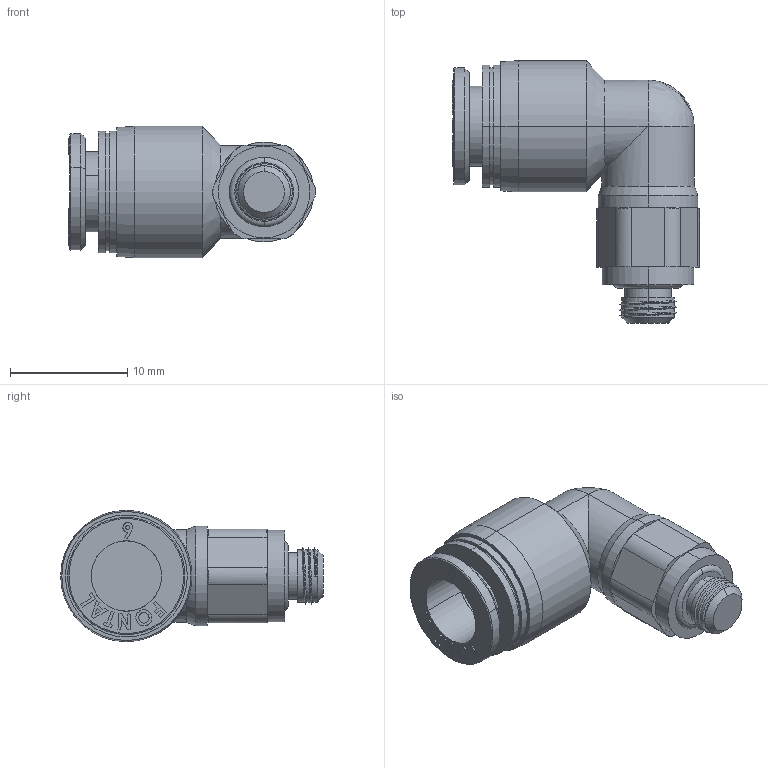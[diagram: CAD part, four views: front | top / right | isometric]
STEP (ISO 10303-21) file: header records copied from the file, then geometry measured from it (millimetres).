
FILE_DESCRIPTION (( 'STEP AP203' ), '1' );
FILE_NAME ('FPL6-M5.STEP', '2016-01-14T21:04:41', ( '' ), ( '' ), 'SwSTEP 2.0', 'SolidWorks 2014', '' );
FILE_SCHEMA (( 'CONFIG_CONTROL_DESIGN' ));
Length unit declared in the file: millimetre
Products named in the file (4): FPL6-M5; FPC6-M5-A; FPL6-M5-B; FPL6-01-A
Assembly tree (3 placements, depth 2):
  FPL6-M5
    FPL6-01-A
    FPC6-M5-A
    FPL6-M5-B
Bounding box: 21.07 x 22.4 x 11.2 mm (x, y, z)
Volume: 1625.4 mm3; surface area: 1606.6 mm2
Topology: 3 solids, 3 shells, 176 faces, 430 edges, 278 vertices
Faces by surface type: plane 89, cylinder 41, cone 22, bspline 20, torus 4
Entity records: 7067 total; most frequent: CARTESIAN_POINT 2652, ORIENTED_EDGE 856, DIRECTION 780, EDGE_CURVE 428, VERTEX_POINT 278, AXIS2_PLACEMENT_3D 272, LINE 236, VECTOR 236
